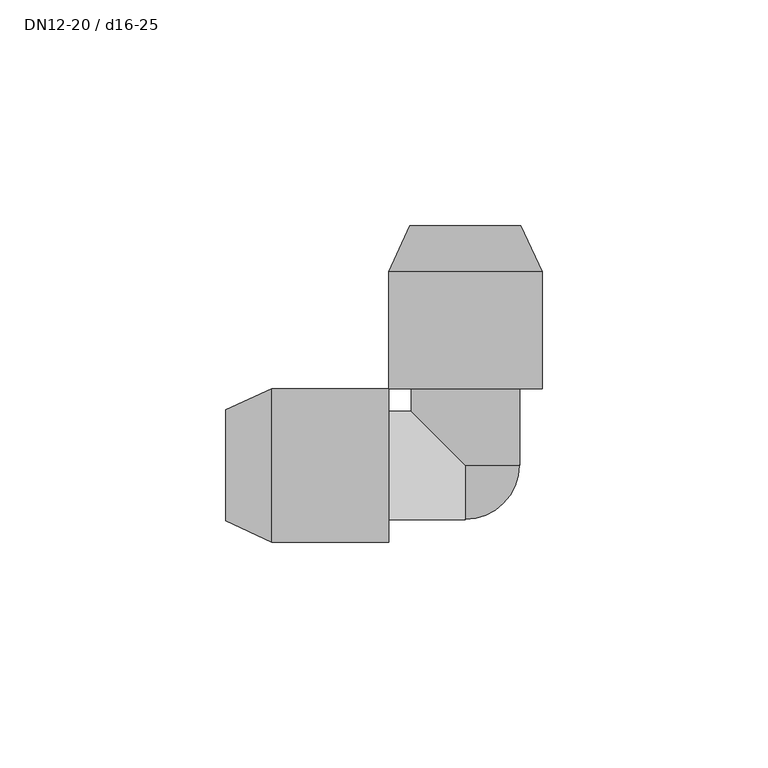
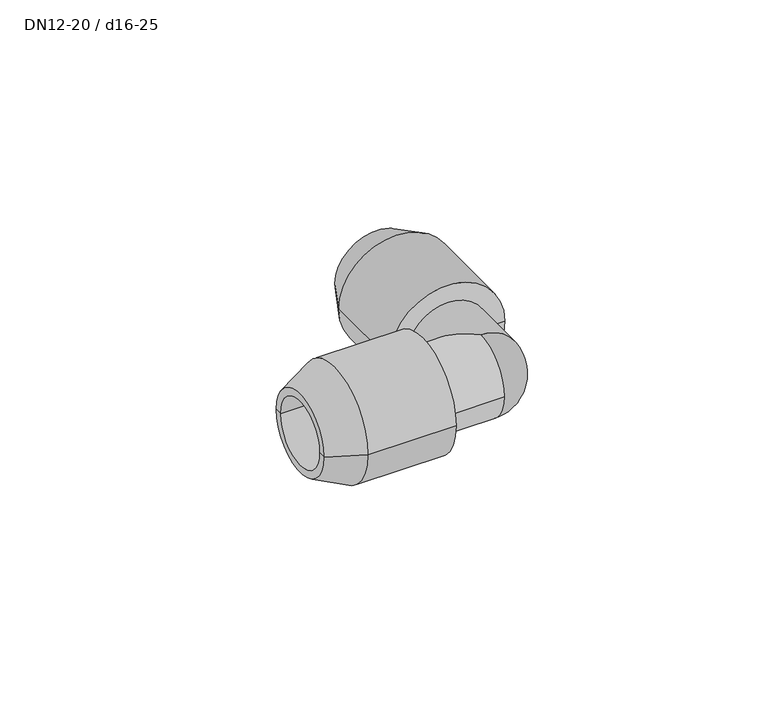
"""IFC4 building model written with IfcOpenShell, lengths in millimetres: pipe fitting geometry, NLRS_50_PIF_UN_PushFit bocht 90°_geb : DN12-20 / d16-25."""

from ifc_helpers import new_model, si_unit, point, frame, origin, place, context, project, spatial, polyline, circle_curve, ellipse_curve, trimmed, source, transform, mapped, element, save
from ifc_brep_helpers import plane_surface, cylinder_surface, revolved_surface, advanced_brep


def dn12_20_d16_25_b63a6013(model_context):
    return source(origin(), model_context, "Body", "AdvancedBrep", [
        advanced_brep(
        [(-17.0, 17.0, 0.0), (17.0, 17.0, 0.0), (0.0, 17.0, 0.0), (-17.0, 42.8135921, 0.0), (17.0, 42.8135921, 0.0), (-12.25, 53.0, 0.0), (12.25, 53.0, 0.0), (-10.0, 27.0, 0.0), (10.0, 27.0, 0.0), (10.0, 53.0, 0.0), (-10.0, 53.0, 0.0), (0.0, 27.0, 0.0)],
        [
            (0, 1, circle_curve(frame((0.0, 17.0, 0.0), z_axis=(0.0, -1.0, 0.0), x_axis=(1.0, 0.0, 0.0)), 17.0)),
            (1, 2),
            (2, 0),
            (1, 0, circle_curve(frame((0.0, 17.0, 0.0), z_axis=(0.0, -1.0, 0.0), x_axis=(1.0, 0.0, 0.0)), 17.0)),
            (3, 4, circle_curve(frame((0.0, 42.8135921, 0.0), z_axis=(0.0, -1.0, 0.0), x_axis=(1.0, 0.0, 0.0)), 17.0)),
            (4, 1),
            (0, 3),
            (4, 3, circle_curve(frame((0.0, 42.8135921, 0.0), z_axis=(0.0, -1.0, 0.0), x_axis=(1.0, 0.0, 0.0)), 17.0)),
            (5, 6, circle_curve(frame((0.0, 53.0, 0.0), z_axis=(0.0, -1.0, 0.0), x_axis=(1.0, 0.0, 0.0)), 12.25)),
            (6, 4),
            (3, 5),
            (6, 5, circle_curve(frame((0.0, 53.0, 0.0), z_axis=(0.0, -1.0, 0.0), x_axis=(1.0, 0.0, 0.0)), 12.25)),
            (7, 8, circle_curve(frame((0.0, 27.0, 0.0), z_axis=(0.0, -1.0, 0.0), x_axis=(1.0, 0.0, 0.0)), 10.0)),
            (8, 9),
            (9, 10, circle_curve(frame((0.0, 53.0, 0.0), z_axis=(0.0, 1.0, 0.0), x_axis=(1.0, 0.0, 0.0)), 10.0)),
            (10, 7),
            (8, 7, circle_curve(frame((0.0, 27.0, 0.0), z_axis=(0.0, -1.0, 0.0), x_axis=(1.0, 0.0, 0.0)), 10.0)),
            (10, 9, circle_curve(frame((0.0, 53.0, 0.0), z_axis=(0.0, 1.0, 0.0), x_axis=(1.0, 0.0, 0.0)), 10.0)),
            (11, 8),
            (7, 11),
            (9, 6),
            (5, 10),
        ],
        [
            plane_surface(frame((0.0, 17.0, 0.0), z_axis=(0.0, -1.0, 0.0), x_axis=(1.0, 0.0, 0.0))),
            cylinder_surface(frame((0.0, 63.0, 0.0), z_axis=(0.0, 1.0, 0.0), x_axis=(1.0, 0.0, 0.0)), 17.0),
            revolved_surface(polyline([(17.0, 42.8135921, 0.0), (12.25, 53.0, 0.0)]), (0.0, 63.0, 0.0), (0.0, 1.0, 0.0)),
            revolved_surface(polyline([(10.0, 53.0, 0.0), (10.0, 27.0, 0.0)]), (0.0, 63.0, 0.0), (0.0, 1.0, 0.0)),
            plane_surface(frame((0.0, 27.0, 0.0), z_axis=(0.0, 1.0, 0.0), x_axis=(1.0, 0.0, 0.0))),
            plane_surface(frame((0.0, 53.0, 0.0), z_axis=(0.0, 1.0, 0.0), x_axis=(1.0, 0.0, 0.0))),
        ],
        [
            (0, [[1, 2, 3]]),
            (0, [[4, -3, -2]]),
            (1, [[5, 6, -1, 7]]),
            (1, [[8, -7, -4, -6]]),
            (2, [[9, 10, -5, 11]]),
            (2, [[12, -11, -8, -10]]),
            (3, [[13, 14, 15, 16]]),
            (3, [[17, -16, 18, -14]]),
            (4, [[19, -13, 20]]),
            (4, [[-20, -17, -19]]),
            (5, [[-15, 21, -9, 22]]),
            (5, [[-18, -22, -12, -21]]),
        ],
    ),
        advanced_brep(
        [(-17.0, -17.0, 0.0), (-17.0, 17.0, 0.0), (-17.0, 0.0, 0.0), (-42.8135921, -17.0, 0.0), (-42.8135921, 17.0, 0.0), (-53.0, -12.25, 0.0), (-53.0, 12.25, 0.0), (-27.0, -10.0, 0.0), (-27.0, 10.0, 0.0), (-53.0, 10.0, 0.0), (-53.0, -10.0, 0.0), (-27.0, 0.0, 0.0)],
        [
            (0, 1, circle_curve(frame((-17.0, 0.0, 0.0), z_axis=(1.0, 0.0, 0.0), x_axis=(0.0, 1.0, 0.0)), 17.0)),
            (1, 2),
            (2, 0),
            (1, 0, circle_curve(frame((-17.0, 0.0, 0.0), z_axis=(1.0, 0.0, 0.0), x_axis=(0.0, 1.0, 0.0)), 17.0)),
            (3, 4, circle_curve(frame((-42.8135921, 0.0, 0.0), z_axis=(1.0, 0.0, 0.0), x_axis=(0.0, 1.0, 0.0)), 17.0)),
            (4, 1),
            (0, 3),
            (4, 3, circle_curve(frame((-42.8135921, 0.0, 0.0), z_axis=(1.0, 0.0, 0.0), x_axis=(0.0, 1.0, 0.0)), 17.0)),
            (5, 6, circle_curve(frame((-53.0, 0.0, 0.0), z_axis=(1.0, 0.0, 0.0), x_axis=(0.0, 1.0, 0.0)), 12.25)),
            (6, 4),
            (3, 5),
            (6, 5, circle_curve(frame((-53.0, 0.0, 0.0), z_axis=(1.0, 0.0, 0.0), x_axis=(0.0, 1.0, 0.0)), 12.25)),
            (7, 8, circle_curve(frame((-27.0, 0.0, 0.0), z_axis=(1.0, 0.0, 0.0), x_axis=(0.0, 1.0, 0.0)), 10.0)),
            (8, 9),
            (9, 10, circle_curve(frame((-53.0, 0.0, 0.0), z_axis=(-1.0, 0.0, 0.0), x_axis=(0.0, 1.0, 0.0)), 10.0)),
            (10, 7),
            (8, 7, circle_curve(frame((-27.0, 0.0, 0.0), z_axis=(1.0, 0.0, 0.0), x_axis=(0.0, 1.0, 0.0)), 10.0)),
            (10, 9, circle_curve(frame((-53.0, 0.0, 0.0), z_axis=(-1.0, 0.0, 0.0), x_axis=(0.0, 1.0, 0.0)), 10.0)),
            (11, 8),
            (7, 11),
            (9, 6),
            (5, 10),
        ],
        [
            plane_surface(frame((-17.0, 0.0, 0.0), z_axis=(1.0, 0.0, 0.0), x_axis=(0.0, 1.0, 0.0))),
            cylinder_surface(frame((-63.0, 0.0, 0.0), z_axis=(-1.0, 0.0, 0.0), x_axis=(0.0, 1.0, 0.0)), 17.0),
            revolved_surface(polyline([(-42.8135921, 17.0, 0.0), (-53.0, 12.25, 0.0)]), (-63.0, 0.0, 0.0), (-1.0, 0.0, 0.0)),
            revolved_surface(polyline([(-53.0, 10.0, 0.0), (-27.0, 10.0, 0.0)]), (-63.0, 0.0, 0.0), (-1.0, 0.0, 0.0)),
            plane_surface(frame((-27.0, 0.0, 0.0), z_axis=(-1.0, 0.0, 0.0), x_axis=(0.0, 1.0, 0.0))),
            plane_surface(frame((-53.0, 0.0, 0.0), z_axis=(-1.0, 0.0, 0.0), x_axis=(0.0, 1.0, 0.0))),
        ],
        [
            (0, [[1, 2, 3]]),
            (0, [[4, -3, -2]]),
            (1, [[5, 6, -1, 7]]),
            (1, [[8, -7, -4, -6]]),
            (2, [[9, 10, -5, 11]]),
            (2, [[12, -11, -8, -10]]),
            (3, [[13, 14, 15, 16]]),
            (3, [[17, -16, 18, -14]]),
            (4, [[19, -13, 20]]),
            (4, [[-20, -17, -19]]),
            (5, [[-15, 21, -9, 22]]),
            (5, [[-18, -22, -12, -21]]),
        ],
    ),
        advanced_brep(
        [(-12.0, 17.0, 0.0), (12.0, 17.0, 0.0), (-12.0, 12.0, 0.0), (0.0, 0.0, 12.0), (12.0, 0.0, 0.0), (0.0, 0.0, -12.0), (-17.0, 12.0, 0.0), (-17.0, -12.0, 0.0), (0.0, -12.0, 0.0)],
        [
            (0, 1, circle_curve(frame((0.0, 17.0, 0.0), z_axis=(0.0, 1.0, 0.0), x_axis=(1.0, 0.0, 0.0)), 12.0)),
            (1, 0, circle_curve(frame((0.0, 17.0, 0.0), z_axis=(0.0, 1.0, 0.0), x_axis=(1.0, 0.0, 0.0)), 12.0)),
            (0, 2),
            (2, 3, ellipse_curve(frame((0.0, 0.0, 0.0), z_axis=(0.7071067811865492, 0.7071067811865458, 0.0), x_axis=(-0.7071067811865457, 0.7071067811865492, 0.0)), 16.9705627, 12.0)),
            (3, 4, circle_curve(frame((0.0, 0.0, 0.0), z_axis=(0.0, 1.0, 0.0), x_axis=(1.0, 0.0, 0.0)), 12.0)),
            (4, 1),
            (4, 5, circle_curve(frame((0.0, 0.0, 0.0), z_axis=(0.0, 1.0, 0.0), x_axis=(1.0, 0.0, 0.0)), 12.0)),
            (5, 2, ellipse_curve(frame((0.0, 0.0, 0.0), z_axis=(0.7071067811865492, 0.7071067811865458, 0.0), x_axis=(-0.7071067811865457, 0.7071067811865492, 0.0)), 16.9705627, 12.0)),
            (6, 7, circle_curve(frame((-17.0, 0.0, 0.0), z_axis=(-1.0, 0.0, 0.0), x_axis=(0.0, -1.0, 0.0)), 12.0)),
            (7, 6, circle_curve(frame((-17.0, 0.0, 0.0), z_axis=(-1.0, 0.0, 0.0), x_axis=(0.0, -1.0, 0.0)), 12.0)),
            (7, 8),
            (8, 3, circle_curve(frame((0.0, 0.0, 0.0), z_axis=(-1.0, 0.0, 0.0), x_axis=(0.0, -1.0, 0.0)), 12.0)),
            (2, 6),
            (5, 8, circle_curve(frame((0.0, 0.0, 0.0), z_axis=(-1.0, 0.0, 0.0), x_axis=(0.0, -1.0, 0.0)), 12.0)),
        ],
        [
            plane_surface(frame((0.0, 17.0, 0.0), z_axis=(0.0, 1.0, 0.0), x_axis=(0.0, 0.0, 1.0))),
            cylinder_surface(frame((0.0, 17.0, 0.0), z_axis=(0.0, 1.0, 0.0), x_axis=(1.0, 0.0, 0.0)), 12.0),
            plane_surface(frame((-17.0, 0.0, 0.0), z_axis=(-1.0, 0.0, 0.0), x_axis=(0.0, 0.0, 1.0))),
            cylinder_surface(frame((0.0, 0.0, 0.0), z_axis=(1.0, 0.0, 0.0), x_axis=(0.0, -1.0, 0.0)), 12.0),
            revolved_surface(trimmed(ellipse_curve(frame((0.0, 0.0, 0.0), z_axis=(0.0, -1.0, 0.0), x_axis=(1.0, 0.0, 0.0)), 12.0, 12.0), [point((0.0, 0.0, -12.0))], [point((0.0, 0.0, 12.0))], True, "CARTESIAN"), (0.0, 0.0, 33.7080973), (0.0, 0.0, 1.0)),
        ],
        [
            (0, [[1, 2]]),
            (1, [[-1, 3, 4, 5, 6]]),
            (1, [[-2, -6, 7, 8, -3]]),
            (2, [[9, 10]]),
            (3, [[-10, 11, 12, -4, 13]]),
            (3, [[-9, -13, -8, 14, -11]]),
            (4, [[-5, -12, -14, -7]]),
        ],
    ),
    ])


if __name__ == "__main__":
    model = new_model("IFC4")
    model_context = context("Model", 3, world=origin())
    ifc_project = project(units=[si_unit("LENGTHUNIT", "METRE", prefix="MILLI")], contexts=[model_context])
    site = spatial("IfcSite", under=ifc_project)
    building = spatial("IfcBuilding", under=site)
    placement = place(None, origin())
    dn12_20_d16_25_shape = dn12_20_d16_25_b63a6013(model_context)
    element("IfcPipeFitting", 1, ObjectType="NLRS_50_PIF_UN_PushFit bocht 90°_geb : DN12-20 / d16-25", at=placement, inside=building, context=model_context, shape_type="MappedRepresentation", body=[
        mapped(dn12_20_d16_25_shape, transform((0.0, 0.0, 0.0), x_axis=(1.0, 0.0, 0.0), y_axis=(0.0, 1.0, 0.0), z_axis=(0.0, 0.0, 1.0))),
    ])
    save(model, "model.ifc")
